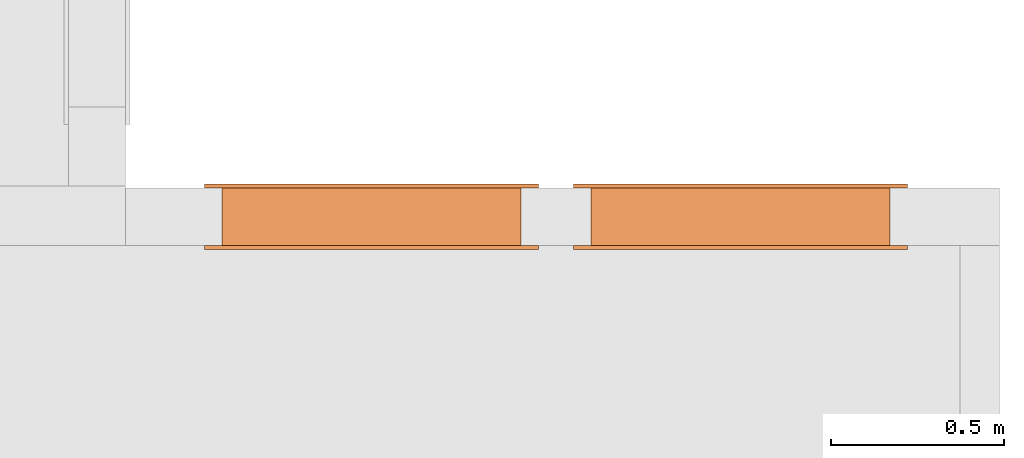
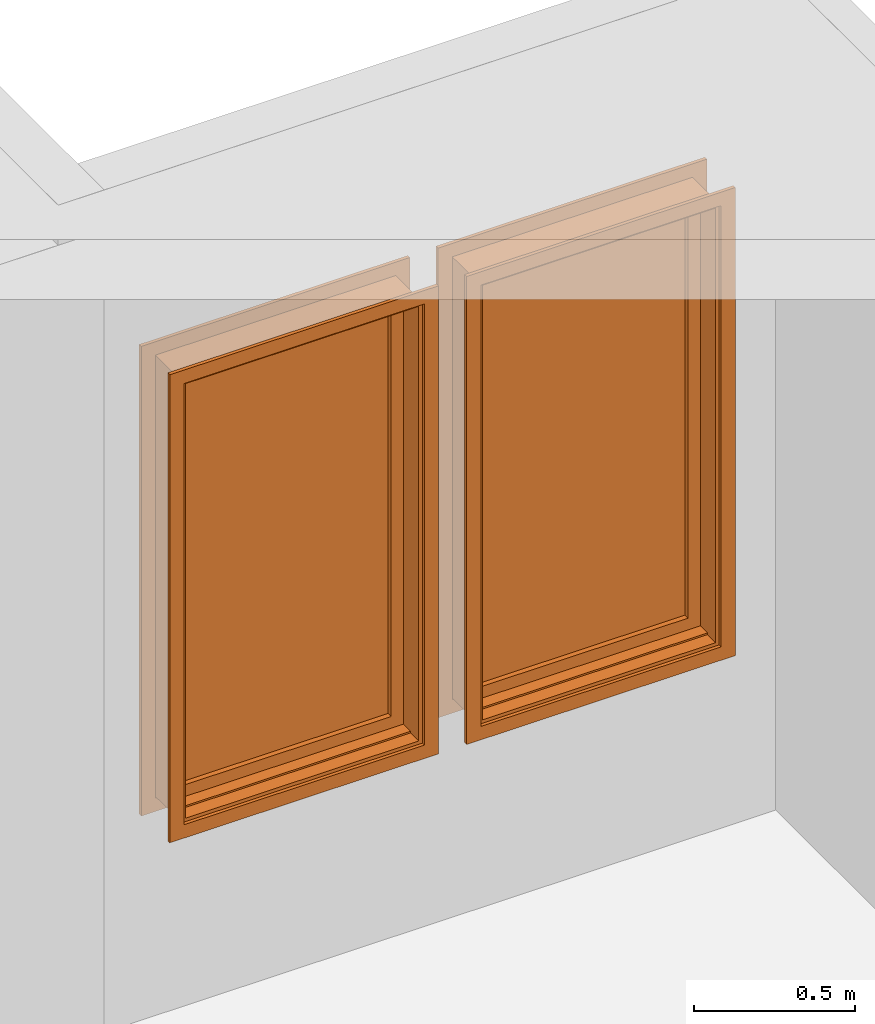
# One storey, part 68 of 103: 2 proxies.
"""IFC2X3 building model written with IfcOpenShell, lengths in inches."""

from ifc_helpers import new_model, entity, si_unit, converted_unit, derived_unit, money_unit, direction, frame, origin_with_axes, place, context, subcontext, project, spatial, faceted_brep, source, transform, mapped, type_object, element, save


model = new_model("IFC2X3")

# Units and contexts
model_context = context("Model", 3, precision=0.00039370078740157, world=origin_with_axes(), true_north=direction((0.0, 1.0)))
plan_context = context("Plan", 3, precision=0.00039370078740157, world=origin_with_axes(), true_north=direction((0.0, 1.0)))
body_context = subcontext(model_context, "Body", "Model", "MODEL_VIEW")
ifc_project = project(units=[converted_unit("LENGTHUNIT", "INCH", entity("IfcPositiveLengthMeasure", 0.0254), si_unit("LENGTHUNIT", "METRE"), dimensions=[1, 0, 0, 0, 0, 0, 0]), converted_unit("AREAUNIT", "SQUARE_FOOT", entity("IfcPositiveLengthMeasure", 0.09290304), si_unit("AREAUNIT", "SQUARE_METRE"), dimensions=[2, 0, 0, 0, 0, 0, 0]), si_unit("PLANEANGLEUNIT", "RADIAN"), si_unit("SOLIDANGLEUNIT", "STERADIAN"), money_unit("USD"), converted_unit("TIMEUNIT", "Year", entity("IfcTimeMeasure", 31557600.0), si_unit("TIMEUNIT", "SECOND"), dimensions=[0, 0, 1, 0, 0, 0, 0]), si_unit("MASSUNIT", "GRAM", prefix="KILO"), si_unit("THERMODYNAMICTEMPERATUREUNIT", "DEGREE_CELSIUS"), si_unit("LUMINOUSINTENSITYUNIT", "LUMEN"), si_unit("ENERGYUNIT", "JOULE", prefix="MEGA"), derived_unit("SPECIFICHEATCAPACITYUNIT", [(si_unit("ENERGYUNIT", "JOULE"), 1), (si_unit("MASSUNIT", "GRAM", prefix="KILO"), -1), (si_unit("THERMODYNAMICTEMPERATUREUNIT", "KELVIN"), -1)])], contexts=[model_context, plan_context])

# Site, building, storey
site_placement = place(None, origin_with_axes())
site = spatial("IfcSite", under=ifc_project, at=site_placement, Name="Site", CompositionType="ELEMENT")
building_placement = place(site_placement, origin_with_axes())
building = spatial("IfcBuilding", under=site, at=building_placement, Name="Building", CompositionType="ELEMENT")
storey_placement = place(building_placement, frame((0.0, 0.0, 127.9999999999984), z_axis=(0.0, 0.0, 1.0), x_axis=(1.0, 0.0, 0.0)))
storey = spatial("IfcBuildingStorey", under=building, at=storey_placement, Name="Second Floor", CompositionType="ELEMENT", Elevation=128.0)

# Proxies
building_element_proxy_type = type_object("IfcBuildingElementProxyType", Name="W Fixed", PredefinedType="NOTDEFINED")
shared_shape = source(origin_with_axes(), body_context, "Body", "Brep", [
    faceted_brep([(16.99999999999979, -4.499999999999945, 0.0), (16.99999999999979, -6.49999999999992, 0.0), (-16.99999999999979, -6.49999999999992, 0.0), (-16.99999999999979, -4.499999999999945, 0.0), (16.99999999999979, -4.499999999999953, 65.99999999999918), (16.99999999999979, -6.499999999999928, 65.99999999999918), (-16.99999999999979, -6.499999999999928, 65.99999999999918), (16.4999999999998, -6.49999999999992, 0.4999999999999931), (-16.4999999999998, -6.49999999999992, 0.4999999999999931), (-16.4999999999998, -6.499999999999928, 65.49999999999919), (16.4999999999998, -6.499999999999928, 65.49999999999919), (-16.99999999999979, -4.499999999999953, 65.99999999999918), (16.4999999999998, -4.499999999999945, 0.4999999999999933), (16.4999999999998, -4.499999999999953, 65.49999999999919), (-16.4999999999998, -4.499999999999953, 65.49999999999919), (-16.4999999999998, -4.499999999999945, 0.4999999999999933)], [[[0, 1, 2, 3]], [[4, 5, 1, 0]], [[1, 5, 6, 2], [7, 8, 9, 10]], [[3, 2, 6, 11]], [[0, 3, 11, 4], [12, 13, 14, 15]], [[11, 6, 5, 4]], [[15, 8, 7, 12]], [[14, 9, 8, 15]], [[13, 10, 9, 14]], [[12, 7, 10, 13]]]),
    faceted_brep([(18.99999999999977, -6.999999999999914, -1.999999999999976), (16.99999999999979, -6.999999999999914, 0.0), (16.99999999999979, -6.49999999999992, 0.0), (18.99999999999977, -6.499999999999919, -1.999999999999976), (18.99999999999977, -6.999999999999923, 67.99999999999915), (16.99999999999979, -6.999999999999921, 65.99999999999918), (16.99999999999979, -6.499999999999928, 65.99999999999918), (18.99999999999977, -6.499999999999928, 67.99999999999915)], [[[0, 1, 2, 3]], [[0, 4, 5, 1]], [[1, 5, 6, 2]], [[3, 2, 6, 7]], [[4, 0, 3, 7]], [[5, 4, 7, 6]]]),
    faceted_brep([(-18.99999999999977, -6.999999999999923, 67.99999999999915), (-16.99999999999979, -6.999999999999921, 65.99999999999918), (-16.99999999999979, -6.499999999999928, 65.99999999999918), (-18.99999999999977, -6.499999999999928, 67.99999999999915), (-18.99999999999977, -6.999999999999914, -1.999999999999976), (-16.99999999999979, -6.999999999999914, 0.0), (-16.99999999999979, -6.49999999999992, 0.0), (-18.99999999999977, -6.499999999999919, -1.999999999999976)], [[[0, 1, 2, 3]], [[0, 4, 5, 1]], [[1, 5, 6, 2]], [[3, 2, 6, 7]], [[4, 0, 3, 7]], [[5, 4, 7, 6]]]),
    faceted_brep([(-18.99999999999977, -6.999999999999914, -1.999999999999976), (-16.99999999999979, -6.999999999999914, 0.0), (-16.99999999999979, -6.49999999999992, 0.0), (-18.99999999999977, -6.499999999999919, -1.999999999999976), (18.99999999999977, -6.999999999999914, -1.999999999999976), (16.99999999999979, -6.999999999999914, 0.0), (16.99999999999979, -6.49999999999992, 0.0), (18.99999999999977, -6.499999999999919, -1.999999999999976)], [[[0, 1, 2, 3]], [[0, 4, 5, 1]], [[1, 5, 6, 2]], [[3, 2, 6, 7]], [[4, 0, 3, 7]], [[5, 4, 7, 6]]]),
    faceted_brep([(18.99999999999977, -6.999999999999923, 67.99999999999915), (16.99999999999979, -6.999999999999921, 65.99999999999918), (16.99999999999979, -6.499999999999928, 65.99999999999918), (18.99999999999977, -6.499999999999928, 67.99999999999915), (-18.99999999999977, -6.999999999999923, 67.99999999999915), (-16.99999999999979, -6.999999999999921, 65.99999999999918), (-16.99999999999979, -6.499999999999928, 65.99999999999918), (-18.99999999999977, -6.499999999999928, 67.99999999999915)], [[[0, 1, 2, 3]], [[0, 4, 5, 1]], [[1, 5, 6, 2]], [[3, 2, 6, 7]], [[4, 0, 3, 7]], [[5, 4, 7, 6]]]),
    faceted_brep([(18.99999999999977, 0.4999999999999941, -2.249999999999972), (18.99999999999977, 0.0, -2.249999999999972), (16.99999999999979, 0.0, -0.249999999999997), (16.99999999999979, 0.4999999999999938, -0.2499999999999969), (18.99999999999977, 0.4999999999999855, 67.99999999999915), (18.99999999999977, 0.0, 67.99999999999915), (16.99999999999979, 0.0, 65.99999999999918), (16.99999999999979, 0.4999999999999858, 65.99999999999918)], [[[0, 1, 2, 3]], [[4, 5, 1, 0]], [[1, 5, 6, 2]], [[3, 2, 6, 7]], [[0, 3, 7, 4]], [[7, 6, 5, 4]]]),
    faceted_brep([(-18.99999999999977, 0.4999999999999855, 67.99999999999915), (-18.99999999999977, 0.0, 67.99999999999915), (-16.99999999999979, 0.0, 65.99999999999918), (-16.99999999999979, 0.4999999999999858, 65.99999999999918), (-18.99999999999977, 0.4999999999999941, -2.249999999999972), (-18.99999999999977, 0.0, -2.249999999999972), (-16.99999999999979, 0.0, -0.249999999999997), (-16.99999999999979, 0.4999999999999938, -0.2499999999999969)], [[[0, 1, 2, 3]], [[4, 5, 1, 0]], [[1, 5, 6, 2]], [[3, 2, 6, 7]], [[0, 3, 7, 4]], [[7, 6, 5, 4]]]),
    faceted_brep([(-18.99999999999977, 0.4999999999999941, -2.249999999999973), (-18.99999999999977, 0.0, -2.249999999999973), (-16.99999999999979, 0.0, -0.249999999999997), (-16.99999999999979, 0.4999999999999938, -0.2499999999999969), (18.99999999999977, 0.4999999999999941, -2.249999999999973), (18.99999999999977, 0.0, -2.249999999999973), (16.99999999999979, 0.0, -0.249999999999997), (16.99999999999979, 0.4999999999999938, -0.2499999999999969)], [[[0, 1, 2, 3]], [[4, 5, 1, 0]], [[1, 5, 6, 2]], [[3, 2, 6, 7]], [[0, 3, 7, 4]], [[7, 6, 5, 4]]]),
    faceted_brep([(18.99999999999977, 0.4999999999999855, 67.99999999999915), (18.99999999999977, 0.0, 67.99999999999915), (16.99999999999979, 0.0, 65.99999999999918), (16.99999999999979, 0.4999999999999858, 65.99999999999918), (-18.99999999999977, 0.4999999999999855, 67.99999999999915), (-18.99999999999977, 0.0, 67.99999999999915), (-16.99999999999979, 0.0, 65.99999999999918), (-16.99999999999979, 0.4999999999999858, 65.99999999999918)], [[[0, 1, 2, 3]], [[4, 5, 1, 0]], [[1, 5, 6, 2]], [[3, 2, 6, 7]], [[0, 3, 7, 4]], [[7, 6, 5, 4]]]),
    faceted_brep([(16.5003937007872, -4.499999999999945, 0.7539370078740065), (16.99999999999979, -4.499999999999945, 0.7539370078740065), (16.99999999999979, -4.499999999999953, 65.49606299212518), (16.5003937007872, -4.499999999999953, 65.49606299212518), (16.5003937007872, -2.749999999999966, 0.7539370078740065), (16.74999999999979, -2.749999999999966, 0.7539370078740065), (16.74999999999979, 0.0, 0.7539370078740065), (16.99999999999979, 0.0, 0.7539370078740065), (16.99999999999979, 0.0, 65.49606299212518), (16.74999999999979, 0.0, 65.49606299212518), (16.74999999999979, -2.749999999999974, 65.49606299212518), (16.5003937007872, -2.749999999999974, 65.49606299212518)], [[[0, 1, 2, 3]], [[4, 5, 6, 7, 1, 0]], [[7, 8, 2, 1]], [[3, 2, 8, 9, 10, 11]], [[11, 4, 0, 3]], [[11, 10, 5, 4]], [[5, 10, 9, 6]], [[7, 6, 9, 8]]]),
    faceted_brep([(-16.5003937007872, -2.749999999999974, 65.49606299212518), (-16.74999999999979, -2.749999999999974, 65.49606299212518), (-16.74999999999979, 0.0, 65.49606299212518), (-16.99999999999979, 0.0, 65.49606299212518), (-16.99999999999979, -4.499999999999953, 65.49606299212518), (-16.5003937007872, -4.499999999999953, 65.49606299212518), (-16.5003937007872, -2.749999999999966, 0.7539370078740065), (-16.74999999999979, -2.749999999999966, 0.7539370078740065), (-16.74999999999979, 0.0, 0.7539370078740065), (-16.99999999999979, 0.0, 0.7539370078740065), (-16.99999999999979, -4.499999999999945, 0.7539370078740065), (-16.5003937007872, -4.499999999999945, 0.7539370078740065)], [[[0, 1, 2, 3, 4, 5]], [[6, 7, 1, 0]], [[7, 8, 2, 1]], [[3, 2, 8, 9]], [[3, 9, 10, 4]], [[5, 4, 10, 11]], [[11, 6, 0, 5]], [[11, 10, 9, 8, 7, 6]]]),
    faceted_brep([(-16.5003937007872, -2.749999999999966, 0.7539370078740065), (-16.74999999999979, -2.749999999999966, 0.7539370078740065), (-16.74999999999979, 0.0, 0.7539370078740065), (-16.99999999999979, 0.0, 0.7539370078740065), (-16.99999999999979, -4.499999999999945, 0.7539370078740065), (-16.5003937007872, -4.499999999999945, 0.7539370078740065), (-16.5003937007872, -2.749999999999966, 0.7496062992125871), (16.5003937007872, -2.749999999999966, 0.7496062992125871), (16.5003937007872, -2.749999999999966, 0.7539370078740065), (16.74999999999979, -2.749999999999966, 0.7539370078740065), (16.74999999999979, -2.749999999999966, 0.4999999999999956), (-16.74999999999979, -2.749999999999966, 0.4999999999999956), (-16.74999999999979, 0.0, 0.4999999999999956), (16.99999999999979, 0.0, 0.0), (-16.99999999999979, 0.0, 0.0), (16.74999999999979, 0.0, 0.4999999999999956), (16.74999999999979, 0.0, 0.7539370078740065), (16.99999999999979, 0.0, 0.7539370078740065), (-16.99999999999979, -4.499999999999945, 0.0), (16.5003937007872, -4.499999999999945, 0.7496062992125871), (-16.5003937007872, -4.499999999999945, 0.7496062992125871), (16.99999999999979, -4.499999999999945, 0.0), (16.99999999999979, -4.499999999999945, 0.7539370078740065), (16.5003937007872, -4.499999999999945, 0.7539370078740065)], [[[0, 1, 2, 3, 4, 5]], [[6, 7, 8, 9, 10, 11, 1, 0]], [[11, 12, 2, 1]], [[13, 14, 3, 2, 12, 15, 16, 17]], [[3, 14, 18, 4]], [[19, 20, 5, 4, 18, 21, 22, 23]], [[20, 6, 0, 5]], [[19, 7, 6, 20]], [[8, 7, 19, 23]], [[23, 22, 17, 16, 9, 8]], [[10, 9, 16, 15]], [[10, 15, 12, 11]], [[14, 13, 21, 18]], [[13, 17, 22, 21]]]),
    faceted_brep([(16.5003937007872, -4.499999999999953, 65.49606299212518), (16.99999999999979, -4.499999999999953, 65.49606299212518), (16.99999999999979, -4.499999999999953, 65.99999999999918), (-16.99999999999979, -4.499999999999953, 65.99999999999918), (-16.99999999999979, -4.499999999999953, 65.49606299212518), (-16.5003937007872, -4.499999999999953, 65.49606299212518), (-16.5003937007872, -4.499999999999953, 65.50039370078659), (16.5003937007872, -4.499999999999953, 65.50039370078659), (16.5003937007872, -2.749999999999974, 65.49606299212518), (16.74999999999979, -2.749999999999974, 65.49606299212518), (16.74999999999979, 0.0, 65.49606299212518), (16.99999999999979, 0.0, 65.49606299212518), (16.99999999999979, 0.0, 65.99999999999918), (-16.99999999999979, 0.0, 65.99999999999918), (-16.99999999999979, 0.0, 65.49606299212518), (-16.74999999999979, 0.0, 65.49606299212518), (-16.74999999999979, -2.749999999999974, 65.49606299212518), (-16.5003937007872, -2.749999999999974, 65.49606299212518), (-16.5003937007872, -2.749999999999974, 65.50039370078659), (16.5003937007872, -2.749999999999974, 65.50039370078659), (-16.74999999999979, -2.749999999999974, 65.74999999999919), (16.74999999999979, -2.749999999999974, 65.74999999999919), (16.74999999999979, 0.0, 65.74999999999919), (-16.74999999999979, 0.0, 65.74999999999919)], [[[0, 1, 2, 3, 4, 5, 6, 7]], [[8, 9, 10, 11, 1, 0]], [[11, 12, 2, 1]], [[12, 13, 3, 2]], [[13, 14, 4, 3]], [[5, 4, 14, 15, 16, 17]], [[5, 17, 18, 6]], [[6, 18, 19, 7]], [[7, 19, 8, 0]], [[19, 18, 17, 16, 20, 21, 9, 8]], [[21, 22, 10, 9]], [[15, 14, 13, 12, 11, 10, 22, 23]], [[16, 15, 23, 20]], [[20, 23, 22, 21]]]),
    faceted_brep([(14.74999999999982, -2.749999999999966, 2.499999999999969), (14.74999999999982, -2.749999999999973, 63.74999999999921), (14.74999999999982, -1.874999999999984, 63.74999999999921), (14.74999999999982, -1.874999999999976, 2.499999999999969), (16.74999999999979, -2.749999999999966, 2.499999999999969), (16.74999999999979, -2.749999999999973, 63.74999999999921), (16.74999999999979, -1.874999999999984, 63.74999999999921), (16.74999999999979, -1.874999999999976, 2.499999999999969)], [[[0, 1, 2, 3]], [[0, 4, 5, 1]], [[1, 5, 6, 2]], [[3, 2, 6, 7]], [[4, 0, 3, 7]], [[5, 4, 7, 6]]]),
    faceted_brep([(-16.74999999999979, -2.749999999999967, 2.499999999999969), (-16.74999999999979, -2.749999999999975, 63.74999999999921), (-16.74999999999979, -1.874999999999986, 63.74999999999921), (-16.74999999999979, -1.874999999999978, 2.499999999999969), (-14.74999999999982, -2.749999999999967, 2.499999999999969), (-14.74999999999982, -2.749999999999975, 63.74999999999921), (-14.74999999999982, -1.874999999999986, 63.74999999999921), (-14.74999999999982, -1.874999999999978, 2.499999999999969)], [[[0, 1, 2, 3]], [[0, 4, 5, 1]], [[1, 5, 6, 2]], [[3, 2, 6, 7]], [[4, 0, 3, 7]], [[5, 4, 7, 6]]]),
    faceted_brep([(-16.74999999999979, -2.749999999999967, 0.4999999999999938), (-16.74999999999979, -2.749999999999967, 2.499999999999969), (-16.74999999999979, -1.874999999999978, 2.499999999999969), (-16.74999999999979, -1.874999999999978, 0.4999999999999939), (16.74999999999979, -2.749999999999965, 0.4999999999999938), (16.74999999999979, -2.749999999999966, 2.499999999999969), (14.74999999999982, -2.749999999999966, 2.499999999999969), (0.9999999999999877, -2.749999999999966, 2.499999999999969), (-0.9999999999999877, -2.749999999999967, 2.499999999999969), (-14.74999999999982, -2.749999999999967, 2.499999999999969), (-14.74999999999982, -1.874999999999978, 2.499999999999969), (-0.9999999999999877, -1.874999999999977, 2.499999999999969), (0.9999999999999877, -1.874999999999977, 2.499999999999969), (14.74999999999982, -1.874999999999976, 2.499999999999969), (16.74999999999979, -1.874999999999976, 2.499999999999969), (16.74999999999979, -1.874999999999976, 0.4999999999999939)], [[[0, 1, 2, 3]], [[0, 4, 5, 6, 7, 8, 9, 1]], [[1, 9, 10, 2]], [[3, 2, 10, 11, 12, 13, 14, 15]], [[4, 0, 3, 15]], [[5, 4, 15, 14]], [[6, 5, 14, 13]], [[7, 6, 13, 12]], [[8, 7, 12, 11]], [[9, 8, 11, 10]]]),
    faceted_brep([(16.74999999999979, -2.749999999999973, 65.74999999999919), (16.74999999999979, -2.749999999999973, 63.74999999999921), (16.74999999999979, -1.874999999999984, 63.74999999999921), (16.74999999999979, -1.874999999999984, 65.74999999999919), (-16.74999999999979, -2.749999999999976, 65.74999999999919), (-16.74999999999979, -2.749999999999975, 63.74999999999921), (-14.74999999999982, -2.749999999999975, 63.74999999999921), (-0.9999999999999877, -2.749999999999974, 63.74999999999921), (0.9999999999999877, -2.749999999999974, 63.74999999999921), (14.74999999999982, -2.749999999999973, 63.74999999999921), (14.74999999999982, -1.874999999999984, 63.74999999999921), (0.9999999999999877, -1.874999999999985, 63.74999999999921), (-0.9999999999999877, -1.874999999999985, 63.74999999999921), (-14.74999999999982, -1.874999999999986, 63.74999999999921), (-16.74999999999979, -1.874999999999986, 63.74999999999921), (-16.74999999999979, -1.874999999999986, 65.74999999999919)], [[[0, 1, 2, 3]], [[0, 4, 5, 6, 7, 8, 9, 1]], [[1, 9, 10, 2]], [[3, 2, 10, 11, 12, 13, 14, 15]], [[4, 0, 3, 15]], [[5, 4, 15, 14]], [[6, 5, 14, 13]], [[7, 6, 13, 12]], [[8, 7, 12, 11]], [[9, 8, 11, 10]]]),
    faceted_brep([(14.74999999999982, -1.874999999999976, 2.499999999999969), (14.74999999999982, -1.874999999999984, 63.74999999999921), (14.74999999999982, -0.999999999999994, 63.74999999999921), (14.74999999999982, -0.9999999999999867, 2.499999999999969), (16.74999999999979, -1.874999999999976, 2.499999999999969), (16.74999999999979, -1.874999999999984, 63.74999999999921), (16.74999999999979, -0.999999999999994, 63.74999999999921), (16.74999999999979, -0.9999999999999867, 2.499999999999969)], [[[0, 1, 2, 3]], [[0, 4, 5, 1]], [[1, 5, 6, 2]], [[3, 2, 6, 7]], [[4, 0, 3, 7]], [[5, 4, 7, 6]]]),
    faceted_brep([(-16.74999999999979, -1.874999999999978, 2.499999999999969), (-16.74999999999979, -1.874999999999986, 63.74999999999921), (-16.74999999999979, -0.9999999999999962, 63.74999999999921), (-16.74999999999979, -0.9999999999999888, 2.499999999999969), (-14.74999999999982, -1.874999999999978, 2.499999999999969), (-14.74999999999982, -1.874999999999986, 63.74999999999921), (-14.74999999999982, -0.9999999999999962, 63.74999999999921), (-14.74999999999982, -0.9999999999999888, 2.499999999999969)], [[[0, 1, 2, 3]], [[0, 4, 5, 1]], [[1, 5, 6, 2]], [[3, 2, 6, 7]], [[4, 0, 3, 7]], [[5, 4, 7, 6]]]),
    faceted_brep([(-16.74999999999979, -1.874999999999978, 0.4999999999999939), (-16.74999999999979, -1.874999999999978, 2.499999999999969), (-16.74999999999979, -0.9999999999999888, 2.499999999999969), (-16.74999999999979, -0.9999999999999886, 0.499999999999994), (16.74999999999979, -1.874999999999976, 0.4999999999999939), (16.74999999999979, -1.874999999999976, 2.499999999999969), (14.74999999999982, -1.874999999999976, 2.499999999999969), (0.9999999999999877, -1.874999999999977, 2.499999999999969), (-0.9999999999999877, -1.874999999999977, 2.499999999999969), (-14.74999999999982, -1.874999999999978, 2.499999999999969), (-14.74999999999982, -0.9999999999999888, 2.499999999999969), (-0.9999999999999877, -0.9999999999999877, 2.499999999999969), (0.9999999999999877, -0.9999999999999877, 2.499999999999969), (14.74999999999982, -0.9999999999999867, 2.499999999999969), (16.74999999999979, -0.9999999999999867, 2.499999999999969), (16.74999999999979, -0.9999999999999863, 0.499999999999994)], [[[0, 1, 2, 3]], [[0, 4, 5, 6, 7, 8, 9, 1]], [[1, 9, 10, 2]], [[3, 2, 10, 11, 12, 13, 14, 15]], [[4, 0, 3, 15]], [[5, 4, 15, 14]], [[6, 5, 14, 13]], [[7, 6, 13, 12]], [[8, 7, 12, 11]], [[9, 8, 11, 10]]]),
    faceted_brep([(16.74999999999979, -1.874999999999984, 65.74999999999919), (16.74999999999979, -1.874999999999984, 63.74999999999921), (16.74999999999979, -0.999999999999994, 63.74999999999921), (16.74999999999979, -0.9999999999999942, 65.74999999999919), (-16.74999999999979, -1.874999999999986, 65.74999999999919), (-16.74999999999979, -1.874999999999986, 63.74999999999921), (-14.74999999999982, -1.874999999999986, 63.74999999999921), (-0.9999999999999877, -1.874999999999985, 63.74999999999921), (0.9999999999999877, -1.874999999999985, 63.74999999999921), (14.74999999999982, -1.874999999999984, 63.74999999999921), (14.74999999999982, -0.999999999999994, 63.74999999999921), (0.9999999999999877, -0.9999999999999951, 63.74999999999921), (-0.9999999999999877, -0.9999999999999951, 63.74999999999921), (-14.74999999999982, -0.9999999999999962, 63.74999999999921), (-16.74999999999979, -0.9999999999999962, 63.74999999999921), (-16.74999999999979, -0.9999999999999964, 65.74999999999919)], [[[0, 1, 2, 3]], [[0, 4, 5, 6, 7, 8, 9, 1]], [[1, 9, 10, 2]], [[3, 2, 10, 11, 12, 13, 14, 15]], [[4, 0, 3, 15]], [[5, 4, 15, 14]], [[6, 5, 14, 13]], [[7, 6, 13, 12]], [[8, 7, 12, 11]], [[9, 8, 11, 10]]]),
    faceted_brep([(14.74999999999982, -1.999999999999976, 2.499999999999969), (-14.74999999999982, -1.999999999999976, 2.499999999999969), (-14.74999999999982, -1.749999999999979, 2.499999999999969), (14.74999999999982, -1.749999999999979, 2.499999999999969), (14.74999999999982, -1.999999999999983, 63.74999999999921), (-14.74999999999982, -1.999999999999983, 63.74999999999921), (-14.74999999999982, -1.749999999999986, 63.74999999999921), (14.74999999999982, -1.749999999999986, 63.74999999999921)], [[[0, 1, 2, 3]], [[0, 4, 5, 1]], [[1, 5, 6, 2]], [[3, 2, 6, 7]], [[4, 0, 3, 7]], [[5, 4, 7, 6]]]),
])
proxy_1_placement = place(storey_placement, frame((438.9999999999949, 132.2499999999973, 27.4999999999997), z_axis=(0.0, 0.0, 1.0), x_axis=(1.0, 0.0, 0.0)))
element("IfcBuildingElementProxy", 1, at=proxy_1_placement, inside=storey, type_object=building_element_proxy_type, Name="WD - 002", context=body_context, shape_type="MappedRepresentation", body=[
    mapped(shared_shape, transform((16.99999999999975, 6.499999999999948, 0.0))),
])
proxy_2_placement = place(storey_placement, frame((480.9999999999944, 132.2499999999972, 27.4999999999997), z_axis=(0.0, 0.0, 1.0), x_axis=(1.0, 0.0, 0.0)))
element("IfcBuildingElementProxy", 2, at=proxy_2_placement, inside=storey, type_object=building_element_proxy_type, Name="WD - 002", context=body_context, shape_type="MappedRepresentation", body=[
    mapped(shared_shape, transform((16.99999999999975, 6.500000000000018, 0.0))),
])

save(model, "model.ifc")
